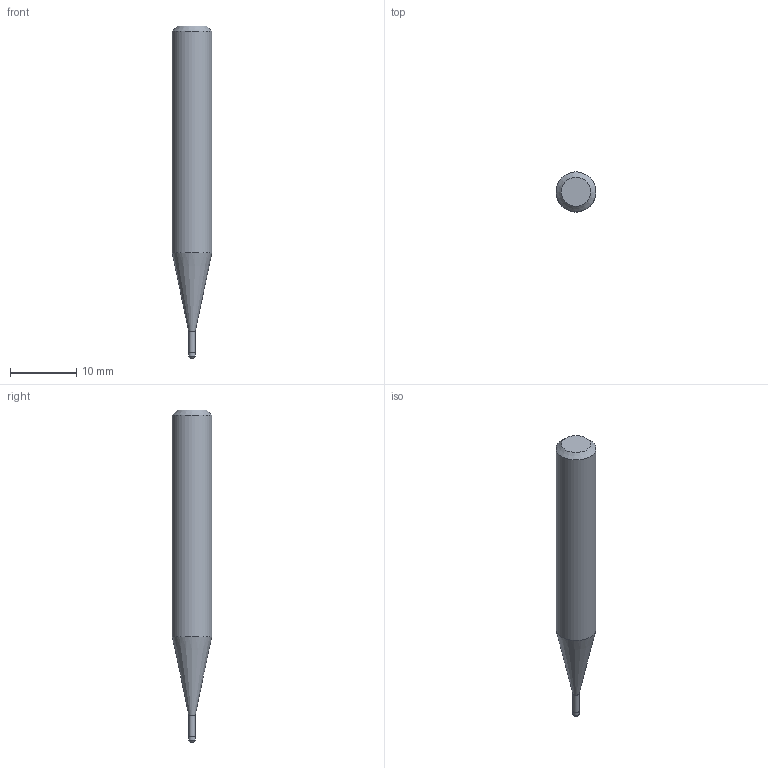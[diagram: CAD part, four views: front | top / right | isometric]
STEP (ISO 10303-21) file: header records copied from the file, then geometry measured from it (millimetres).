
FILE_DESCRIPTION((''),'2;1');
FILE_NAME('C:\Users\nsx150\AppData\Local\Temp\Mastercam 2021\17T8Q8S9EB\TEMP.step','2021-04-21T14:34:19',(''),(''),'STEP Write','Mastercam 2021 ... CNC Software, Inc.','');
FILE_SCHEMA(('AUTOMOTIVE_DESIGN'));
Length unit declared in the file: millimetre
Products named in the file (1): None
Bounding box: 6 x 6 x 50 mm (x, y, z)
Volume: 1094.6 mm3; surface area: 808.3 mm2
Topology: 2 solids, 2 shells, 10 faces, 14 edges, 8 vertices
Faces by surface type: plane 4, cylinder 3, cone 2, torus 1
Full cylindrical faces by diameter (mm): 0.95 x1, 1 x1, 6 x1
Entity records: 232 total; most frequent: DIRECTION 40, CARTESIAN_POINT 28, AXIS2_PLACEMENT_3D 20, ORIENTED_EDGE 16, EDGE_LOOP 16, STYLED_ITEM 13, ADVANCED_FACE 10, FACE_BOUND 10
